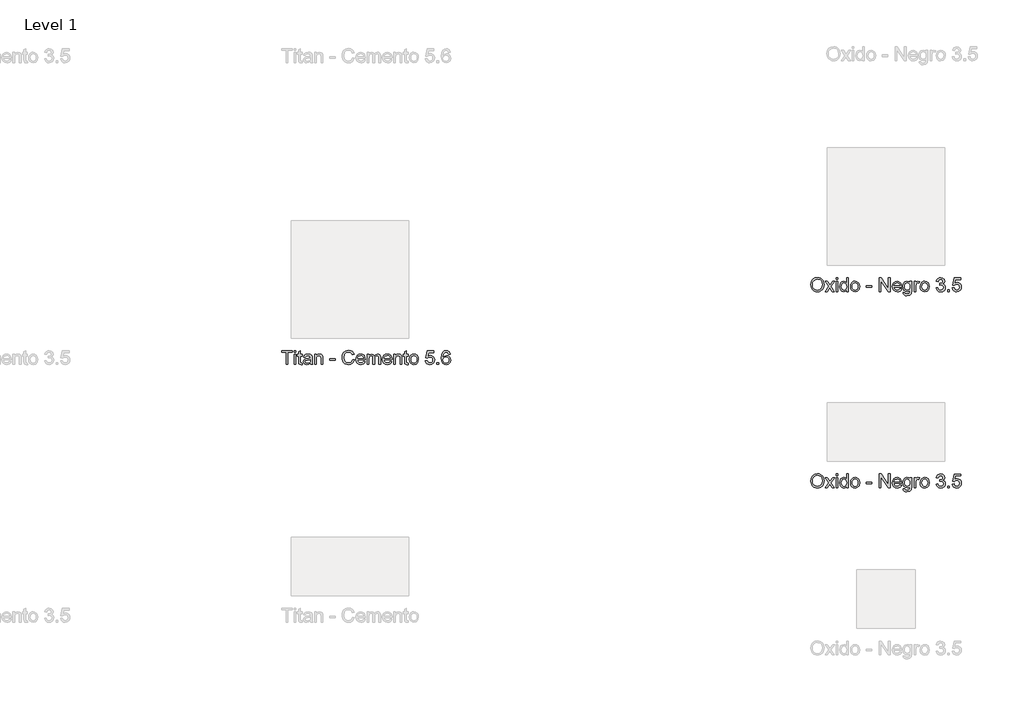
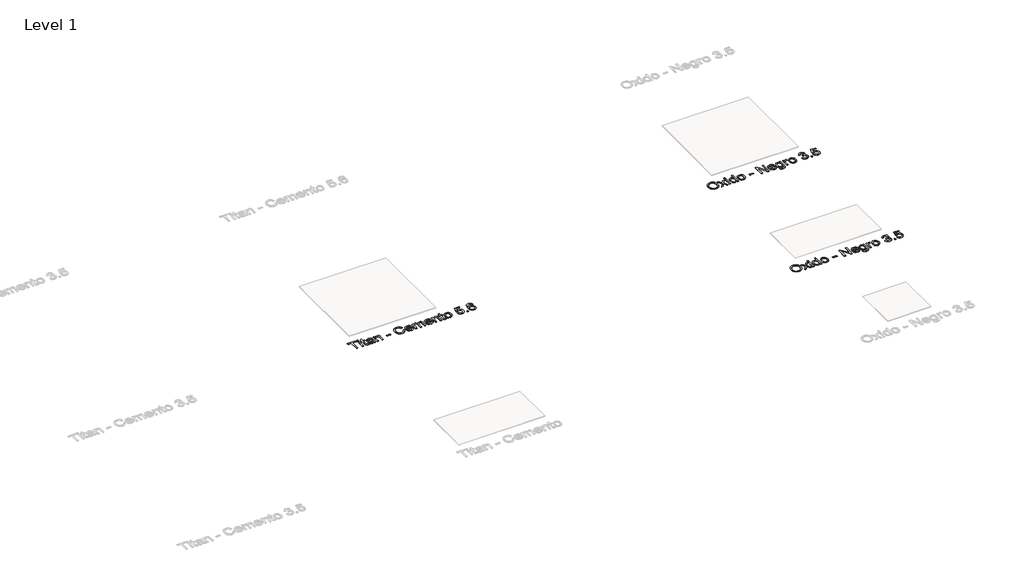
# One storey, part 33 of 80: 3 proxies.
"""IFC4 building model written with IfcOpenShell, lengths in millimetres."""

from ifc_helpers import new_model, si_unit, origin, origin_with_axes, place, context, project, spatial, polyline, outline, extrude, element, save

model = new_model("IFC4")

# Units and contexts
model_context = context("Model", 3, world=origin())
ifc_project = project(units=[si_unit("LENGTHUNIT", "METRE", prefix="MILLI")], contexts=[model_context])

# Site, building, storey
site = spatial("IfcSite", under=ifc_project)
building = spatial("IfcBuilding", under=site)
storey = spatial("IfcBuildingStorey", under=building, Name="Level 1", Elevation=0.0)

# Proxies
placement = place(None, origin())
element("IfcBuildingElementProxy", 1, Name="24\" Arial", ObjectType="24\" Arial", at=placement, inside=storey, context=model_context, shape_type="SweptSolid", body=[
    extrude(outline(polyline([(12694.7700459, -9552.677529), (12698.7075459, -9526.5501252), (12710.5200459, -9506.7832983), (12728.5561036, -9494.3433944), (12751.1642767, -9490.1967598), (12766.6618729, -9492.1438752), (12780.5585075, -9497.9852213), (12792.096969, -9507.3097406), (12800.5200459, -9519.7063752), (12805.6690844, -9534.5765675), (12807.3854306, -9551.3217598), (12805.5789402, -9568.2905098), (12800.159469, -9583.3698367), (12791.4262959, -9595.788106), (12779.6786998, -9604.7736829), (12765.9010556, -9610.225606), (12751.0777383, -9612.0429137), (12735.3421613, -9610.0345002), (12721.3661998, -9604.0092598), (12709.8565844, -9594.5116637), (12701.5200459, -9582.0861829), (12696.4575459, -9567.7893079), (12694.7700459, -9552.677529)]), holes=[polyline([(12709.5392767, -9552.8217598), (12712.4924017, -9571.3049329), (12721.3517767, -9585.3890675), (12734.6678825, -9594.302529), (12750.9911998, -9597.2736829), (12767.5524979, -9594.2736829), (12780.8902383, -9585.2736829), (12789.6847094, -9570.756856), (12792.6161998, -9551.2063752), (12787.596969, -9526.8313752), (12781.4202863, -9517.5897887), (12772.9286998, -9510.6919521), (12751.2508152, -9504.9659906), (12735.3637959, -9507.724404), (12721.8565844, -9515.9996444), (12712.6186036, -9530.7220002), (12709.5392767, -9552.8217598)])]), origin_with_axes(), (0.0, 0.0, 1.0), 2.0),
    extrude(outline(polyline([(12816.6161998, -9610.1967598), (12848.1738921, -9566.5813752), (12818.4623536, -9523.427529), (12836.2315844, -9523.427529), (12850.5681229, -9544.1967598), (12857.2604306, -9554.0044521), (12863.0585075, -9545.9852213), (12879.3854306, -9523.427529), (12897.1546613, -9523.427529), (12865.9431229, -9566.5813752), (12896.0008152, -9610.1967598), (12878.2315844, -9610.1967598), (12860.1450459, -9583.975606), (12856.8277383, -9579.1871444), (12834.3854306, -9610.1967598), (12816.6161998, -9610.1967598)])), origin_with_axes(), (0.0, 0.0, 1.0), 2.0),
    extrude(outline(polyline([(12908.9238921, -9506.8121444), (12908.9238921, -9492.0429137), (12923.6931229, -9492.0429137), (12923.6931229, -9506.8121444), (12908.9238921, -9506.8121444)])), origin_with_axes(), (0.0, 0.0, 1.0), 2.0),
    extrude(outline(polyline([(12908.9238921, -9610.1967598), (12908.9238921, -9523.427529), (12923.6931229, -9523.427529), (12923.6931229, -9610.1967598), (12908.9238921, -9610.1967598)])), origin_with_axes(), (0.0, 0.0, 1.0), 2.0),
    extrude(outline(polyline([(12999.3854306, -9610.1967598), (12999.3854306, -9596.2640675), (12989.6137959, -9608.0982021), (12976.1065844, -9612.0429137), (12957.8181229, -9606.3313752), (12944.8950459, -9590.3938752), (12940.3085075, -9566.8986829), (12944.534469, -9543.3890675), (12949.8133152, -9534.0645483), (12957.1979306, -9527.2063752), (12976.0488921, -9521.5813752), (12989.6642767, -9525.6054137), (12999.3854306, -9536.0621444), (12999.3854306, -9492.0429137), (13014.1546613, -9492.0429137), (13014.1546613, -9610.1967598), (12999.3854306, -9610.1967598)]), holes=[polyline([(12955.0777383, -9566.8409906), (12956.7436036, -9580.2003656), (12961.7411998, -9589.7015675), (12969.003219, -9595.380654), (12977.4623536, -9597.2736829), (12985.9178825, -9595.4671925), (12992.9960075, -9590.0477213), (12997.7880748, -9580.9143079), (12999.3854306, -9567.9659906), (12997.7592286, -9553.8097406), (12992.8806229, -9543.9948367), (12985.6222094, -9538.2616637), (12976.8565844, -9536.350606), (12968.3109113, -9538.1859425), (12961.3085075, -9543.6919521), (12956.6354306, -9553.1498848), (12955.0777383, -9566.8409906)])]), origin_with_axes(), (0.0, 0.0, 1.0), 2.0),
    extrude(outline(polyline([(13032.6161998, -9566.8121444), (13035.8109113, -9545.8914713), (13045.3950459, -9531.1871444), (13057.2363921, -9523.9828175), (13071.4142767, -9521.5813752), (13086.9299017, -9524.505654), (13099.3229306, -9533.2784906), (13107.4467286, -9547.2075771), (13110.1546613, -9565.600606), (13105.3661998, -9591.8794521), (13091.4190844, -9606.7496444), (13071.4142767, -9612.0429137), (13055.7111517, -9609.1294521), (13043.3325459, -9600.3890675), (13035.2952863, -9586.1679137), (13032.6161998, -9566.8121444)]), holes=[polyline([(13047.3854306, -9566.7832983), (13049.0945652, -9580.1498848), (13054.221969, -9589.6727213), (13061.9383152, -9595.3734425), (13071.4142767, -9597.2736829), (13080.846969, -9595.3626252), (13088.5488921, -9589.6294521), (13093.6762959, -9579.9804137), (13095.3854306, -9566.3217598), (13093.6654786, -9553.3445963), (13088.5056229, -9543.9515675), (13080.7928825, -9538.2508463), (13071.4142767, -9536.350606), (13061.9383152, -9538.2436348), (13054.221969, -9543.9227213), (13049.0945652, -9553.4239233), (13047.3854306, -9566.7832983)])]), origin_with_axes(), (0.0, 0.0, 1.0), 2.0),
    extrude(outline(polyline([(13165.5392767, -9575.1198367), (13165.5392767, -9560.350606), (13211.6931229, -9560.350606), (13211.6931229, -9575.1198367), (13165.5392767, -9575.1198367)])), origin_with_axes(), (0.0, 0.0, 1.0), 2.0),
    extrude(outline(polyline([(13276.3085075, -9610.1967598), (13276.3085075, -9492.0429137), (13292.1161998, -9492.0429137), (13353.846969, -9585.6486829), (13353.846969, -9492.0429137), (13368.6161998, -9492.0429137), (13368.6161998, -9610.1967598), (13352.8085075, -9610.1967598), (13291.0777383, -9516.5621444), (13291.0777383, -9610.1967598), (13276.3085075, -9610.1967598)])), origin_with_axes(), (0.0, 0.0, 1.0), 2.0),
    extrude(outline(polyline([(13453.3661998, -9584.350606), (13467.846969, -9586.1967598), (13462.6294209, -9597.1078175), (13454.3036998, -9605.2640675), (13443.0573056, -9610.3482021), (13429.0777383, -9612.0429137), (13411.7484113, -9609.1186348), (13398.4142767, -9600.3457983), (13389.9118729, -9586.2941156), (13387.0777383, -9567.5332983), (13389.940719, -9548.1414713), (13398.5296613, -9533.6390675), (13411.6835075, -9524.5957983), (13428.2411998, -9521.5813752), (13444.2832671, -9524.5885867), (13457.1017767, -9533.6102213), (13465.5068248, -9548.083779), (13468.3085075, -9567.4467598), (13468.221969, -9571.427529), (13401.846969, -9571.427529), (13404.4034594, -9582.4828175), (13410.3421613, -9590.6102213), (13418.9130748, -9595.6078175), (13429.3661998, -9597.2736829), (13443.846969, -9594.1871444), (13453.3661998, -9584.350606)]), holes=[polyline([(13401.846969, -9556.6582983), (13453.5392767, -9556.6582983), (13447.6258152, -9543.2736829), (13439.0152383, -9538.0813752), (13428.1835075, -9536.350606), (13409.9960075, -9541.8746444), (13404.2736517, -9548.3325771), (13401.846969, -9556.6582983)])]), origin_with_axes(), (0.0, 0.0, 1.0), 2.0),
    extrude(outline(polyline([(13479.3854306, -9617.5813752), (13494.1546613, -9619.427529), (13498.9431229, -9627.2159906), (13513.2796613, -9630.5044521), (13528.3950459, -9626.7832983), (13535.6065844, -9616.3409906), (13536.6161998, -9599.1198367), (13526.2171613, -9607.427529), (13513.5392767, -9610.1967598), (13498.3121133, -9606.9732021), (13486.9575459, -9597.302529), (13479.893844, -9583.1246444), (13477.5392767, -9566.3794521), (13481.7652383, -9543.490029), (13493.9960075, -9527.2929137), (13512.8181229, -9521.5813752), (13525.9936036, -9524.8121444), (13536.6161998, -9534.5044521), (13536.6161998, -9523.427529), (13551.3854306, -9523.427529), (13551.3854306, -9598.3409906), (13547.346969, -9627.0284906), (13534.5536998, -9640.3698367), (13512.9911998, -9645.2736829), (13499.2496133, -9643.5465194), (13488.4286998, -9638.365029), (13481.487594, -9629.7147887), (13479.3854306, -9617.5813752)]), holes=[polyline([(13492.3085075, -9565.3698367), (13493.8842286, -9578.9167117), (13498.6113921, -9588.2304137), (13505.7183633, -9593.6282502), (13514.4335075, -9595.427529), (13523.0837479, -9593.6390675), (13530.2267767, -9588.2736829), (13535.018844, -9579.0789713), (13536.6161998, -9565.802529), (13534.971969, -9552.9984425), (13530.0392767, -9543.7784906), (13522.7916806, -9538.2075771), (13514.2027383, -9536.350606), (13505.768844, -9538.178731), (13498.6979306, -9543.663106), (13493.9058633, -9552.7460387), (13492.3085075, -9565.3698367)])]), origin_with_axes(), (0.0, 0.0, 1.0), 2.0),
    extrude(outline(polyline([(13573.5392767, -9610.1967598), (13573.5392767, -9523.427529), (13586.4623536, -9523.427529), (13586.4623536, -9536.2640675), (13595.6354306, -9524.4371444), (13604.8661998, -9521.5813752), (13619.6931229, -9526.1390675), (13614.7604306, -9539.3794521), (13604.3758152, -9536.350606), (13596.0248536, -9539.2640675), (13590.7027383, -9547.3409906), (13588.3085075, -9564.5909906), (13588.3085075, -9610.1967598), (13573.5392767, -9610.1967598)])), origin_with_axes(), (0.0, 0.0, 1.0), 2.0),
    extrude(outline(polyline([(13625.2315844, -9566.8121444), (13628.4262959, -9545.8914713), (13638.0104306, -9531.1871444), (13649.8517767, -9523.9828175), (13664.0296613, -9521.5813752), (13679.5452863, -9524.505654), (13691.9383152, -9533.2784906), (13700.0621133, -9547.2075771), (13702.7700459, -9565.600606), (13697.9815844, -9591.8794521), (13684.034469, -9606.7496444), (13664.0296613, -9612.0429137), (13648.3265363, -9609.1294521), (13635.9479306, -9600.3890675), (13627.9106709, -9586.1679137), (13625.2315844, -9566.8121444)]), holes=[polyline([(13640.0008152, -9566.7832983), (13641.7099498, -9580.1498848), (13646.8373536, -9589.6727213), (13654.5536998, -9595.3734425), (13664.0296613, -9597.2736829), (13673.4623536, -9595.3626252), (13681.1642767, -9589.6294521), (13686.2916806, -9579.9804137), (13688.0008152, -9566.3217598), (13686.2808633, -9553.3445963), (13681.1210075, -9543.9515675), (13673.4082671, -9538.2508463), (13664.0296613, -9536.350606), (13654.5536998, -9538.2436348), (13646.8373536, -9543.9227213), (13641.7099498, -9553.4239233), (13640.0008152, -9566.7832983)])]), origin_with_axes(), (0.0, 0.0, 1.0), 2.0),
    extrude(outline(polyline([(13761.846969, -9578.8121444), (13776.6161998, -9576.9659906), (13784.7652383, -9592.5140675), (13800.0104306, -9597.2736829), (13810.1354306, -9595.6366637), (13817.9527383, -9590.725606), (13822.9503344, -9583.3986829), (13824.6161998, -9574.5140675), (13822.9647575, -9566.0801733), (13818.0104306, -9559.240029), (13810.5104306, -9554.7075771), (13801.221969, -9553.1967598), (13790.8661998, -9554.8121444), (13792.5104306, -9540.0429137), (13794.8758152, -9540.2159906), (13811.6354306, -9535.975606), (13817.2171613, -9530.5957983), (13819.0777383, -9522.9371444), (13813.6835075, -9511.3842598), (13799.7796613, -9506.8121444), (13785.7027383, -9511.427529), (13778.4623536, -9525.2736829), (13763.6931229, -9523.427529), (13768.0416806, -9510.1655098), (13775.7796613, -9500.2640675), (13786.3661998, -9494.0982021), (13799.2604306, -9492.0429137), (13817.0729306, -9496.0957983), (13829.534469, -9507.1727213), (13833.846969, -9522.0717598), (13829.7508152, -9535.6871444), (13817.6354306, -9545.4659906), (13826.8806229, -9549.2015675), (13833.7315844, -9555.5621444), (13837.971969, -9564.2015675), (13839.3854306, -9574.7736829), (13836.5585075, -9589.1679137), (13828.0777383, -9601.1967598), (13815.2772575, -9609.3313752), (13799.4911998, -9612.0429137), (13785.2123536, -9609.7280098), (13773.5873536, -9602.7832983), (13765.503219, -9592.1607021), (13761.846969, -9578.8121444)])), origin_with_axes(), (0.0, 0.0, 1.0), 2.0),
    extrude(outline(polyline([(13859.6931229, -9610.1967598), (13859.6931229, -9595.427529), (13874.4623536, -9595.427529), (13874.4623536, -9610.1967598), (13859.6931229, -9610.1967598)])), origin_with_axes(), (0.0, 0.0, 1.0), 2.0),
    extrude(outline(polyline([(13898.4623536, -9578.8121444), (13913.2315844, -9576.9659906), (13920.6738921, -9592.1823367), (13936.1065844, -9597.2736829), (13946.6931229, -9595.5032502), (13954.6258152, -9590.1919521), (13959.5801421, -9581.9527694), (13961.2315844, -9571.3986829), (13959.6847094, -9561.4611829), (13955.0440844, -9553.8602213), (13947.2736517, -9549.0357021), (13936.3373536, -9547.427529), (13923.3710075, -9549.9948367), (13915.0777383, -9556.6582983), (13900.3085075, -9554.8121444), (13913.2315844, -9493.8890675), (13970.4623536, -9493.8890675), (13970.4623536, -9508.6582983), (13925.1738921, -9508.6582983), (13918.8565844, -9541.1967598), (13929.4070652, -9534.7929137), (13940.4623536, -9532.6582983), (13954.2616325, -9535.3049329), (13965.7171613, -9543.2448367), (13973.4299017, -9555.3457983), (13976.0008152, -9570.475606), (13973.6859113, -9585.2448367), (13966.7411998, -9597.8794521), (13953.4431229, -9608.5020483), (13936.0488921, -9612.0429137), (13921.5428825, -9609.7676733), (13909.9863921, -9602.9419521), (13902.0645171, -9592.3590194), (13898.4623536, -9578.8121444)])), origin_with_axes(), (0.0, 0.0, 1.0), 2.0),
])
element("IfcBuildingElementProxy", 2, Name="24\" Arial", ObjectType="24\" Arial", at=placement, inside=storey, context=model_context, shape_type="SweptSolid", body=[
    extrude(outline(polyline([(12694.7700459, -11222.6920446), (12698.7075459, -11196.5646408), (12710.5200459, -11176.7978138), (12728.5561036, -11164.35791), (12751.1642767, -11160.2112754), (12766.6618729, -11162.1583908), (12780.5585075, -11167.9997369), (12792.096969, -11177.3242561), (12800.5200459, -11189.7208908), (12805.6690844, -11204.5910831), (12807.3854306, -11221.3362754), (12805.5789402, -11238.3050254), (12800.159469, -11253.3843523), (12791.4262959, -11265.8026215), (12779.6786998, -11274.7881985), (12765.9010556, -11280.2401215), (12751.0777383, -11282.0574292), (12735.3421613, -11280.0490158), (12721.3661998, -11274.0237754), (12709.8565844, -11264.5261792), (12701.5200459, -11252.1006985), (12696.4575459, -11237.8038235), (12694.7700459, -11222.6920446)]), holes=[polyline([(12709.5392767, -11222.8362754), (12712.4924017, -11241.3194485), (12721.3517767, -11255.4035831), (12734.6678825, -11264.3170446), (12750.9911998, -11267.2881985), (12767.5524979, -11264.2881985), (12780.8902383, -11255.2881985), (12789.6847094, -11240.7713715), (12792.6161998, -11221.2208908), (12787.596969, -11196.8458908), (12781.4202863, -11187.6043042), (12772.9286998, -11180.7064677), (12751.2508152, -11174.9805061), (12735.3637959, -11177.7389196), (12721.8565844, -11186.01416), (12712.6186036, -11200.7365158), (12709.5392767, -11222.8362754)])]), origin_with_axes(), (0.0, 0.0, 1.0), 2.0),
    extrude(outline(polyline([(12816.6161998, -11280.2112754), (12848.1738921, -11236.5958908), (12818.4623536, -11193.4420446), (12836.2315844, -11193.4420446), (12850.5681229, -11214.2112754), (12857.2604306, -11224.0189677), (12863.0585075, -11215.9997369), (12879.3854306, -11193.4420446), (12897.1546613, -11193.4420446), (12865.9431229, -11236.5958908), (12896.0008152, -11280.2112754), (12878.2315844, -11280.2112754), (12860.1450459, -11253.9901215), (12856.8277383, -11249.20166), (12834.3854306, -11280.2112754), (12816.6161998, -11280.2112754)])), origin_with_axes(), (0.0, 0.0, 1.0), 2.0),
    extrude(outline(polyline([(12908.9238921, -11176.82666), (12908.9238921, -11162.0574292), (12923.6931229, -11162.0574292), (12923.6931229, -11176.82666), (12908.9238921, -11176.82666)])), origin_with_axes(), (0.0, 0.0, 1.0), 2.0),
    extrude(outline(polyline([(12908.9238921, -11280.2112754), (12908.9238921, -11193.4420446), (12923.6931229, -11193.4420446), (12923.6931229, -11280.2112754), (12908.9238921, -11280.2112754)])), origin_with_axes(), (0.0, 0.0, 1.0), 2.0),
    extrude(outline(polyline([(12999.3854306, -11280.2112754), (12999.3854306, -11266.2785831), (12989.6137959, -11278.1127177), (12976.1065844, -11282.0574292), (12957.8181229, -11276.3458908), (12944.8950459, -11260.4083908), (12940.3085075, -11236.9131985), (12944.534469, -11213.4035831), (12949.8133152, -11204.0790638), (12957.1979306, -11197.2208908), (12976.0488921, -11191.5958908), (12989.6642767, -11195.6199292), (12999.3854306, -11206.07666), (12999.3854306, -11162.0574292), (13014.1546613, -11162.0574292), (13014.1546613, -11280.2112754), (12999.3854306, -11280.2112754)]), holes=[polyline([(12955.0777383, -11236.8555061), (12956.7436036, -11250.2148811), (12961.7411998, -11259.7160831), (12969.003219, -11265.3951696), (12977.4623536, -11267.2881985), (12985.9178825, -11265.4817081), (12992.9960075, -11260.0622369), (12997.7880748, -11250.9288235), (12999.3854306, -11237.9805061), (12997.7592286, -11223.8242561), (12992.8806229, -11214.0093523), (12985.6222094, -11208.2761792), (12976.8565844, -11206.3651215), (12968.3109113, -11208.2004581), (12961.3085075, -11213.7064677), (12956.6354306, -11223.1644004), (12955.0777383, -11236.8555061)])]), origin_with_axes(), (0.0, 0.0, 1.0), 2.0),
    extrude(outline(polyline([(13032.6161998, -11236.82666), (13035.8109113, -11215.9059869), (13045.3950459, -11201.20166), (13057.2363921, -11193.9973331), (13071.4142767, -11191.5958908), (13086.9299017, -11194.5201696), (13099.3229306, -11203.2930061), (13107.4467286, -11217.2220927), (13110.1546613, -11235.6151215), (13105.3661998, -11261.8939677), (13091.4190844, -11276.76416), (13071.4142767, -11282.0574292), (13055.7111517, -11279.1439677), (13043.3325459, -11270.4035831), (13035.2952863, -11256.1824292), (13032.6161998, -11236.82666)]), holes=[polyline([(13047.3854306, -11236.7978138), (13049.0945652, -11250.1644004), (13054.221969, -11259.6872369), (13061.9383152, -11265.3879581), (13071.4142767, -11267.2881985), (13080.846969, -11265.3771408), (13088.5488921, -11259.6439677), (13093.6762959, -11249.9949292), (13095.3854306, -11236.3362754), (13093.6654786, -11223.3591119), (13088.5056229, -11213.9660831), (13080.7928825, -11208.2653619), (13071.4142767, -11206.3651215), (13061.9383152, -11208.2581504), (13054.221969, -11213.9372369), (13049.0945652, -11223.4384388), (13047.3854306, -11236.7978138)])]), origin_with_axes(), (0.0, 0.0, 1.0), 2.0),
    extrude(outline(polyline([(13165.5392767, -11245.1343523), (13165.5392767, -11230.3651215), (13211.6931229, -11230.3651215), (13211.6931229, -11245.1343523), (13165.5392767, -11245.1343523)])), origin_with_axes(), (0.0, 0.0, 1.0), 2.0),
    extrude(outline(polyline([(13276.3085075, -11280.2112754), (13276.3085075, -11162.0574292), (13292.1161998, -11162.0574292), (13353.846969, -11255.6631985), (13353.846969, -11162.0574292), (13368.6161998, -11162.0574292), (13368.6161998, -11280.2112754), (13352.8085075, -11280.2112754), (13291.0777383, -11186.57666), (13291.0777383, -11280.2112754), (13276.3085075, -11280.2112754)])), origin_with_axes(), (0.0, 0.0, 1.0), 2.0),
    extrude(outline(polyline([(13453.3661998, -11254.3651215), (13467.846969, -11256.2112754), (13462.6294209, -11267.1223331), (13454.3036998, -11275.2785831), (13443.0573056, -11280.3627177), (13429.0777383, -11282.0574292), (13411.7484113, -11279.1331504), (13398.4142767, -11270.3603138), (13389.9118729, -11256.3086311), (13387.0777383, -11237.5478138), (13389.940719, -11218.1559869), (13398.5296613, -11203.6535831), (13411.6835075, -11194.6103138), (13428.2411998, -11191.5958908), (13444.2832671, -11194.6031023), (13457.1017767, -11203.6247369), (13465.5068248, -11218.0982946), (13468.3085075, -11237.4612754), (13468.221969, -11241.4420446), (13401.846969, -11241.4420446), (13404.4034594, -11252.4973331), (13410.3421613, -11260.6247369), (13418.9130748, -11265.6223331), (13429.3661998, -11267.2881985), (13443.846969, -11264.20166), (13453.3661998, -11254.3651215)]), holes=[polyline([(13401.846969, -11226.6728138), (13453.5392767, -11226.6728138), (13447.6258152, -11213.2881985), (13439.0152383, -11208.0958908), (13428.1835075, -11206.3651215), (13409.9960075, -11211.88916), (13404.2736517, -11218.3470927), (13401.846969, -11226.6728138)])]), origin_with_axes(), (0.0, 0.0, 1.0), 2.0),
    extrude(outline(polyline([(13479.3854306, -11287.5958908), (13494.1546613, -11289.4420446), (13498.9431229, -11297.2305061), (13513.2796613, -11300.5189677), (13528.3950459, -11296.7978138), (13535.6065844, -11286.3555061), (13536.6161998, -11269.1343523), (13526.2171613, -11277.4420446), (13513.5392767, -11280.2112754), (13498.3121133, -11276.9877177), (13486.9575459, -11267.3170446), (13479.893844, -11253.13916), (13477.5392767, -11236.3939677), (13481.7652383, -11213.5045446), (13493.9960075, -11197.3074292), (13512.8181229, -11191.5958908), (13525.9936036, -11194.82666), (13536.6161998, -11204.5189677), (13536.6161998, -11193.4420446), (13551.3854306, -11193.4420446), (13551.3854306, -11268.3555061), (13547.346969, -11297.0430061), (13534.5536998, -11310.3843523), (13512.9911998, -11315.2881985), (13499.2496133, -11313.561035), (13488.4286998, -11308.3795446), (13481.487594, -11299.7293042), (13479.3854306, -11287.5958908)]), holes=[polyline([(13492.3085075, -11235.3843523), (13493.8842286, -11248.9312273), (13498.6113921, -11258.2449292), (13505.7183633, -11263.6427658), (13514.4335075, -11265.4420446), (13523.0837479, -11263.6535831), (13530.2267767, -11258.2881985), (13535.018844, -11249.0934869), (13536.6161998, -11235.8170446), (13534.971969, -11223.0129581), (13530.0392767, -11213.7930061), (13522.7916806, -11208.2220927), (13514.2027383, -11206.3651215), (13505.768844, -11208.1932465), (13498.6979306, -11213.6776215), (13493.9058633, -11222.7605542), (13492.3085075, -11235.3843523)])]), origin_with_axes(), (0.0, 0.0, 1.0), 2.0),
    extrude(outline(polyline([(13573.5392767, -11280.2112754), (13573.5392767, -11193.4420446), (13586.4623536, -11193.4420446), (13586.4623536, -11206.2785831), (13595.6354306, -11194.45166), (13604.8661998, -11191.5958908), (13619.6931229, -11196.1535831), (13614.7604306, -11209.3939677), (13604.3758152, -11206.3651215), (13596.0248536, -11209.2785831), (13590.7027383, -11217.3555061), (13588.3085075, -11234.6055061), (13588.3085075, -11280.2112754), (13573.5392767, -11280.2112754)])), origin_with_axes(), (0.0, 0.0, 1.0), 2.0),
    extrude(outline(polyline([(13625.2315844, -11236.82666), (13628.4262959, -11215.9059869), (13638.0104306, -11201.20166), (13649.8517767, -11193.9973331), (13664.0296613, -11191.5958908), (13679.5452863, -11194.5201696), (13691.9383152, -11203.2930061), (13700.0621133, -11217.2220927), (13702.7700459, -11235.6151215), (13697.9815844, -11261.8939677), (13684.034469, -11276.76416), (13664.0296613, -11282.0574292), (13648.3265363, -11279.1439677), (13635.9479306, -11270.4035831), (13627.9106709, -11256.1824292), (13625.2315844, -11236.82666)]), holes=[polyline([(13640.0008152, -11236.7978138), (13641.7099498, -11250.1644004), (13646.8373536, -11259.6872369), (13654.5536998, -11265.3879581), (13664.0296613, -11267.2881985), (13673.4623536, -11265.3771408), (13681.1642767, -11259.6439677), (13686.2916806, -11249.9949292), (13688.0008152, -11236.3362754), (13686.2808633, -11223.3591119), (13681.1210075, -11213.9660831), (13673.4082671, -11208.2653619), (13664.0296613, -11206.3651215), (13654.5536998, -11208.2581504), (13646.8373536, -11213.9372369), (13641.7099498, -11223.4384388), (13640.0008152, -11236.7978138)])]), origin_with_axes(), (0.0, 0.0, 1.0), 2.0),
    extrude(outline(polyline([(13761.846969, -11248.82666), (13776.6161998, -11246.9805061), (13784.7652383, -11262.5285831), (13800.0104306, -11267.2881985), (13810.1354306, -11265.6511792), (13817.9527383, -11260.7401215), (13822.9503344, -11253.4131985), (13824.6161998, -11244.5285831), (13822.9647575, -11236.0946888), (13818.0104306, -11229.2545446), (13810.5104306, -11224.7220927), (13801.221969, -11223.2112754), (13790.8661998, -11224.82666), (13792.5104306, -11210.0574292), (13794.8758152, -11210.2305061), (13811.6354306, -11205.9901215), (13817.2171613, -11200.6103138), (13819.0777383, -11192.95166), (13813.6835075, -11181.3987754), (13799.7796613, -11176.82666), (13785.7027383, -11181.4420446), (13778.4623536, -11195.2881985), (13763.6931229, -11193.4420446), (13768.0416806, -11180.1800254), (13775.7796613, -11170.2785831), (13786.3661998, -11164.1127177), (13799.2604306, -11162.0574292), (13817.0729306, -11166.1103138), (13829.534469, -11177.1872369), (13833.846969, -11192.0862754), (13829.7508152, -11205.70166), (13817.6354306, -11215.4805061), (13826.8806229, -11219.2160831), (13833.7315844, -11225.57666), (13837.971969, -11234.2160831), (13839.3854306, -11244.7881985), (13836.5585075, -11259.1824292), (13828.0777383, -11271.2112754), (13815.2772575, -11279.3458908), (13799.4911998, -11282.0574292), (13785.2123536, -11279.7425254), (13773.5873536, -11272.7978138), (13765.503219, -11262.1752177), (13761.846969, -11248.82666)])), origin_with_axes(), (0.0, 0.0, 1.0), 2.0),
    extrude(outline(polyline([(13859.6931229, -11280.2112754), (13859.6931229, -11265.4420446), (13874.4623536, -11265.4420446), (13874.4623536, -11280.2112754), (13859.6931229, -11280.2112754)])), origin_with_axes(), (0.0, 0.0, 1.0), 2.0),
    extrude(outline(polyline([(13898.4623536, -11248.82666), (13913.2315844, -11246.9805061), (13920.6738921, -11262.1968523), (13936.1065844, -11267.2881985), (13946.6931229, -11265.5177658), (13954.6258152, -11260.2064677), (13959.5801421, -11251.967285), (13961.2315844, -11241.4131985), (13959.6847094, -11231.4756985), (13955.0440844, -11223.8747369), (13947.2736517, -11219.0502177), (13936.3373536, -11217.4420446), (13923.3710075, -11220.0093523), (13915.0777383, -11226.6728138), (13900.3085075, -11224.82666), (13913.2315844, -11163.9035831), (13970.4623536, -11163.9035831), (13970.4623536, -11178.6728138), (13925.1738921, -11178.6728138), (13918.8565844, -11211.2112754), (13929.4070652, -11204.8074292), (13940.4623536, -11202.6728138), (13954.2616325, -11205.3194485), (13965.7171613, -11213.2593523), (13973.4299017, -11225.3603138), (13976.0008152, -11240.4901215), (13973.6859113, -11255.2593523), (13966.7411998, -11267.8939677), (13953.4431229, -11278.5165638), (13936.0488921, -11282.0574292), (13921.5428825, -11279.7821888), (13909.9863921, -11272.9564677), (13902.0645171, -11262.373535), (13898.4623536, -11248.82666)])), origin_with_axes(), (0.0, 0.0, 1.0), 2.0),
])
element("IfcBuildingElementProxy", 3, Name="24\" Arial", ObjectType="24\" Arial", at=placement, inside=storey, context=model_context, shape_type="SweptSolid", body=[
    extrude(outline(polyline([(8229.846969, -10230.2191462), (8229.846969, -10126.8345308), (8191.0777383, -10126.8345308), (8191.0777383, -10112.0653001), (8283.3854306, -10112.0653001), (8283.3854306, -10126.8345308), (8244.6161998, -10126.8345308), (8244.6161998, -10230.2191462), (8229.846969, -10230.2191462)])), origin_with_axes(), (0.0, 0.0, 1.0), 2.0),
    extrude(outline(polyline([(8298.1546613, -10230.2191462), (8298.1546613, -10143.4499154), (8312.9238921, -10143.4499154), (8312.9238921, -10230.2191462), (8298.1546613, -10230.2191462)])), origin_with_axes(), (0.0, 0.0, 1.0), 2.0),
    extrude(outline(polyline([(8298.1546613, -10126.8345308), (8298.1546613, -10112.0653001), (8312.9238921, -10112.0653001), (8312.9238921, -10126.8345308), (8298.1546613, -10126.8345308)])), origin_with_axes(), (0.0, 0.0, 1.0), 2.0),
    extrude(outline(polyline([(8366.4623536, -10217.9018385), (8368.3085075, -10230.6518385), (8357.2604306, -10232.0653001), (8344.8854306, -10229.613377), (8338.7123536, -10223.1806847), (8336.9238921, -10206.4210693), (8336.9238921, -10158.2191462), (8325.846969, -10158.2191462), (8325.846969, -10143.4499154), (8336.9238921, -10143.4499154), (8336.9238921, -10122.363377), (8351.6931229, -10113.6806847), (8351.6931229, -10143.4499154), (8366.4623536, -10143.4499154), (8366.4623536, -10158.2191462), (8351.6931229, -10158.2191462), (8351.6931229, -10205.988377), (8352.471969, -10213.6037616), (8354.9960075, -10216.300877), (8360.0296613, -10217.2960693), (8366.4623536, -10217.9018385)])), origin_with_axes(), (0.0, 0.0, 1.0), 2.0),
    extrude(outline(polyline([(8436.6161998, -10219.1422231), (8422.2940844, -10229.1518385), (8406.471969, -10232.0653001), (8394.1294209, -10230.3128962), (8385.0248536, -10225.0556847), (8379.4106709, -10217.0725116), (8377.5392767, -10207.1422231), (8380.3661998, -10195.4595308), (8387.7940844, -10186.9787616), (8398.1354306, -10182.1326077), (8410.9142767, -10179.9114539), (8436.5296613, -10174.8345308), (8436.6161998, -10171.5460693), (8432.5488921, -10160.6422231), (8416.221969, -10156.3729924), (8401.2796613, -10159.2143385), (8394.1546613, -10169.2960693), (8379.3854306, -10167.4499154), (8385.7748536, -10153.0268385), (8398.6402383, -10144.5749154), (8418.1258152, -10141.6037616), (8436.0248536, -10144.2287616), (8446.1354306, -10150.8201077), (8450.6642767, -10160.8441462), (8451.3854306, -10173.7672231), (8451.3854306, -10192.1422231), (8452.1354306, -10217.800877), (8455.0777383, -10230.2191462), (8440.3085075, -10230.2191462), (8436.6161998, -10219.1422231)]), holes=[polyline([(8436.6161998, -10189.6037616), (8412.7892767, -10194.1326077), (8400.0825459, -10196.5268385), (8394.3277383, -10200.4210693), (8392.3085075, -10206.1037616), (8396.7075459, -10214.0941462), (8409.6161998, -10217.2960693), (8424.5585075, -10213.7624154), (8434.1931229, -10205.2095308), (8436.5296613, -10193.7864539), (8436.6161998, -10189.6037616)])]), origin_with_axes(), (0.0, 0.0, 1.0), 2.0),
    extrude(outline(polyline([(8471.6931229, -10230.2191462), (8471.6931229, -10143.4499154), (8486.4623536, -10143.4499154), (8486.4623536, -10155.5653001), (8497.7556229, -10145.0941462), (8513.1738921, -10141.6037616), (8527.1210075, -10144.4162616), (8536.6402383, -10151.800877), (8541.0681229, -10162.6614539), (8541.846969, -10176.9403001), (8541.846969, -10230.2191462), (8527.0777383, -10230.2191462), (8527.0777383, -10178.9306847), (8525.3758152, -10165.863377), (8519.3613921, -10158.9547231), (8509.221969, -10156.3729924), (8493.1979306, -10162.1710693), (8488.1462479, -10170.5725116), (8486.4623536, -10184.1806847), (8486.4623536, -10230.2191462), (8471.6931229, -10230.2191462)])), origin_with_axes(), (0.0, 0.0, 1.0), 2.0),
    extrude(outline(polyline([(8600.9238921, -10195.1422231), (8600.9238921, -10180.3729924), (8647.0777383, -10180.3729924), (8647.0777383, -10195.1422231), (8600.9238921, -10195.1422231)])), origin_with_axes(), (0.0, 0.0, 1.0), 2.0),
    extrude(outline(polyline([(8794.7700459, -10188.2191462), (8809.5392767, -10192.0268385), (8802.7243729, -10209.2371751), (8792.0296613, -10221.8104924), (8777.9815844, -10229.5015981), (8761.1065844, -10232.0653001), (8743.9755748, -10230.1253962), (8730.3710075, -10224.3056847), (8719.9431229, -10214.8080885), (8712.3421613, -10201.8345308), (8707.7015363, -10186.582127), (8706.1546613, -10170.2479924), (8707.9034594, -10153.019627), (8713.1498536, -10138.1422231), (8721.6198056, -10126.0881366), (8733.0392767, -10117.3297231), (8746.5825459, -10111.9967904), (8761.4238921, -10110.2191462), (8777.6174017, -10112.519627), (8791.0056229, -10119.4210693), (8801.1702863, -10130.4979924), (8807.6931229, -10145.3249154), (8792.9238921, -10148.8441462), (8787.8036998, -10138.0737135), (8780.8085075, -10130.6854924), (8771.8517767, -10126.4126558), (8760.846969, -10124.988377), (8748.1618729, -10126.5677039), (8737.7411998, -10131.3056847), (8729.8337479, -10138.7047231), (8724.6883152, -10148.2672231), (8720.9238921, -10170.2191462), (8725.3806229, -10195.6614539), (8731.0777383, -10205.1626558), (8739.2556229, -10211.9162616), (8759.6354306, -10217.2960693), (8771.9635556, -10215.4643385), (8782.2363921, -10209.9691462), (8789.9924017, -10200.8681847), (8794.7700459, -10188.2191462)])), origin_with_axes(), (0.0, 0.0, 1.0), 2.0),
    extrude(outline(polyline([(8888.7508152, -10204.3729924), (8903.2315844, -10206.2191462), (8898.0140363, -10217.1302039), (8889.6883152, -10225.2864539), (8878.4419209, -10230.3705885), (8864.4623536, -10232.0653001), (8847.1330267, -10229.1410212), (8833.7988921, -10220.3681847), (8825.2964883, -10206.316502), (8822.4623536, -10187.5556847), (8825.3253344, -10168.1638577), (8833.9142767, -10153.6614539), (8847.0681229, -10144.6181847), (8863.6258152, -10141.6037616), (8879.6678825, -10144.6109731), (8892.4863921, -10153.6326077), (8900.8914402, -10168.1061654), (8903.6931229, -10187.4691462), (8903.6065844, -10191.4499154), (8837.2315844, -10191.4499154), (8839.7880748, -10202.5052039), (8845.7267767, -10210.6326077), (8854.2976902, -10215.6302039), (8864.7508152, -10217.2960693), (8879.2315844, -10214.2095308), (8888.7508152, -10204.3729924)]), holes=[polyline([(8837.2315844, -10176.6806847), (8888.9238921, -10176.6806847), (8883.0104306, -10163.2960693), (8874.3998536, -10158.1037616), (8863.5681229, -10156.3729924), (8845.3806229, -10161.8970308), (8839.6582671, -10168.3549635), (8837.2315844, -10176.6806847)])]), origin_with_axes(), (0.0, 0.0, 1.0), 2.0),
    extrude(outline(polyline([(8918.4623536, -10230.2191462), (8918.4623536, -10143.4499154), (8933.2315844, -10143.4499154), (8933.2315844, -10157.7287616), (8943.3854306, -10146.0316462), (8957.8373536, -10141.6037616), (8972.6354306, -10146.1181847), (8980.7700459, -10158.7672231), (8992.2940844, -10145.894627), (9006.846969, -10141.6037616), (9017.9491325, -10143.3886174), (9026.159469, -10148.7431847), (9031.2327863, -10157.8116943), (9032.9238921, -10170.738377), (9032.9238921, -10230.2191462), (9018.1546613, -10230.2191462), (9018.1546613, -10177.0845308), (9016.784469, -10164.7528001), (9011.8229306, -10158.6806847), (9003.3854306, -10156.3729924), (8995.3842286, -10157.8513577), (8988.8613921, -10162.2864539), (8984.5236517, -10169.9811654), (8983.0777383, -10181.238377), (8983.0777383, -10230.2191462), (8968.3085075, -10230.2191462), (8968.3085075, -10175.4403001), (8964.8902383, -10161.1326077), (8953.6835075, -10156.3729924), (8942.7508152, -10159.5460693), (8935.4815844, -10168.8345308), (8933.2315844, -10186.4595308), (8933.2315844, -10230.2191462), (8918.4623536, -10230.2191462)])), origin_with_axes(), (0.0, 0.0, 1.0), 2.0),
    extrude(outline(polyline([(9115.8277383, -10204.3729924), (9130.3085075, -10206.2191462), (9125.0909594, -10217.1302039), (9116.7652383, -10225.2864539), (9105.518844, -10230.3705885), (9091.5392767, -10232.0653001), (9074.2099498, -10229.1410212), (9060.8758152, -10220.3681847), (9052.3734113, -10206.316502), (9049.5392767, -10187.5556847), (9052.4022575, -10168.1638577), (9060.9911998, -10153.6614539), (9074.1450459, -10144.6181847), (9090.7027383, -10141.6037616), (9106.7448056, -10144.6109731), (9119.5633152, -10153.6326077), (9127.9683633, -10168.1061654), (9130.7700459, -10187.4691462), (9130.6835075, -10191.4499154), (9064.3085075, -10191.4499154), (9066.8649979, -10202.5052039), (9072.8036998, -10210.6326077), (9081.3746133, -10215.6302039), (9091.8277383, -10217.2960693), (9106.3085075, -10214.2095308), (9115.8277383, -10204.3729924)]), holes=[polyline([(9064.3085075, -10176.6806847), (9116.0008152, -10176.6806847), (9110.0873536, -10163.2960693), (9101.4767767, -10158.1037616), (9090.6450459, -10156.3729924), (9072.4575459, -10161.8970308), (9066.7351902, -10168.3549635), (9064.3085075, -10176.6806847)])]), origin_with_axes(), (0.0, 0.0, 1.0), 2.0),
    extrude(outline(polyline([(9145.5392767, -10230.2191462), (9145.5392767, -10143.4499154), (9160.3085075, -10143.4499154), (9160.3085075, -10155.5653001), (9171.6017767, -10145.0941462), (9187.0200459, -10141.6037616), (9200.9671613, -10144.4162616), (9210.4863921, -10151.800877), (9214.9142767, -10162.6614539), (9215.6931229, -10176.9403001), (9215.6931229, -10230.2191462), (9200.9238921, -10230.2191462), (9200.9238921, -10178.9306847), (9199.221969, -10165.863377), (9193.2075459, -10158.9547231), (9183.0681229, -10156.3729924), (9167.0440844, -10162.1710693), (9161.9924017, -10170.5725116), (9160.3085075, -10184.1806847), (9160.3085075, -10230.2191462), (9145.5392767, -10230.2191462)])), origin_with_axes(), (0.0, 0.0, 1.0), 2.0),
    extrude(outline(polyline([(9267.3854306, -10217.9018385), (9269.2315844, -10230.6518385), (9258.1835075, -10232.0653001), (9245.8085075, -10229.613377), (9239.6354306, -10223.1806847), (9237.846969, -10206.4210693), (9237.846969, -10158.2191462), (9226.7700459, -10158.2191462), (9226.7700459, -10143.4499154), (9237.846969, -10143.4499154), (9237.846969, -10122.363377), (9252.6161998, -10113.6806847), (9252.6161998, -10143.4499154), (9267.3854306, -10143.4499154), (9267.3854306, -10158.2191462), (9252.6161998, -10158.2191462), (9252.6161998, -10205.988377), (9253.3950459, -10213.6037616), (9255.9190844, -10216.300877), (9260.9527383, -10217.2960693), (9267.3854306, -10217.9018385)])), origin_with_axes(), (0.0, 0.0, 1.0), 2.0),
    extrude(outline(polyline([(9278.4623536, -10186.8345308), (9281.6570652, -10165.9138577), (9291.2411998, -10151.2095308), (9303.0825459, -10144.0052039), (9317.2604306, -10141.6037616), (9332.7760556, -10144.5280404), (9345.1690844, -10153.300877), (9353.2928825, -10167.2299635), (9356.0008152, -10185.6229924), (9351.2123536, -10211.9018385), (9337.2652383, -10226.7720308), (9317.2604306, -10232.0653001), (9301.5573056, -10229.1518385), (9289.1786998, -10220.4114539), (9281.1414402, -10206.1903001), (9278.4623536, -10186.8345308)]), holes=[polyline([(9293.2315844, -10186.8056847), (9294.940719, -10200.1722712), (9300.0681229, -10209.6951077), (9307.784469, -10215.3958289), (9317.2604306, -10217.2960693), (9326.6931229, -10215.3850116), (9334.3950459, -10209.6518385), (9339.5224498, -10200.0028001), (9341.2315844, -10186.3441462), (9339.5116325, -10173.3669827), (9334.3517767, -10163.9739539), (9326.6390363, -10158.2732327), (9317.2604306, -10156.3729924), (9307.784469, -10158.2660212), (9300.0681229, -10163.9451077), (9294.940719, -10173.4463097), (9293.2315844, -10186.8056847)])]), origin_with_axes(), (0.0, 0.0, 1.0), 2.0),
    extrude(outline(polyline([(9415.0777383, -10198.8345308), (9429.846969, -10196.988377), (9437.2892767, -10212.2047231), (9452.721969, -10217.2960693), (9463.3085075, -10215.5256366), (9471.2411998, -10210.2143385), (9476.1955267, -10201.9751558), (9477.846969, -10191.4210693), (9476.300094, -10181.4835693), (9471.659469, -10173.8826077), (9463.8890363, -10169.0580885), (9452.9527383, -10167.4499154), (9439.9863921, -10170.0172231), (9431.6931229, -10176.6806847), (9416.9238921, -10174.8345308), (9429.846969, -10113.9114539), (9487.0777383, -10113.9114539), (9487.0777383, -10128.6806847), (9441.7892767, -10128.6806847), (9435.471969, -10161.2191462), (9446.0224498, -10154.8153001), (9457.0777383, -10152.6806847), (9470.8770171, -10155.3273193), (9482.3325459, -10163.2672231), (9490.0452863, -10175.3681847), (9492.6161998, -10190.4979924), (9490.3012959, -10205.2672231), (9483.3565844, -10217.9018385), (9470.0585075, -10228.5244347), (9452.6642767, -10232.0653001), (9438.1582671, -10229.7900597), (9426.6017767, -10222.9643385), (9418.6799017, -10212.3814058), (9415.0777383, -10198.8345308)])), origin_with_axes(), (0.0, 0.0, 1.0), 2.0),
    extrude(outline(polyline([(9512.9238921, -10230.2191462), (9512.9238921, -10215.4499154), (9527.6931229, -10215.4499154), (9527.6931229, -10230.2191462), (9512.9238921, -10230.2191462)])), origin_with_axes(), (0.0, 0.0, 1.0), 2.0),
    extrude(outline(polyline([(9627.3854306, -10143.4499154), (9612.6161998, -10145.2960693), (9607.0200459, -10132.9787616), (9600.3205267, -10128.3705885), (9592.221969, -10126.8345308), (9578.8950459, -10130.4114539), (9568.8133152, -10143.8393385), (9564.6161998, -10170.1614539), (9577.6402383, -10158.3778001), (9593.7796613, -10154.5268385), (9607.4238921, -10157.1590501), (9618.8758152, -10165.0556847), (9626.6426421, -10177.1205885), (9629.2315844, -10192.2576077), (9624.3565844, -10212.6374154), (9610.9431229, -10227.0604924), (9591.5873536, -10232.0653001), (9574.831344, -10228.7479924), (9561.4863921, -10218.7960693), (9552.7568248, -10201.2287616), (9549.846969, -10175.0653001), (9553.0777383, -10145.6494347), (9562.7700459, -10125.5364539), (9576.003219, -10115.4330885), (9593.1450459, -10112.0653001), (9606.1041806, -10114.1494347), (9616.4815844, -10120.4018385), (9623.7508152, -10130.332127), (9627.3854306, -10143.4499154)]), holes=[polyline([(9564.6161998, -10192.0268385), (9568.034469, -10204.8201077), (9577.1210075, -10214.1085693), (9590.4335075, -10217.2960693), (9600.1799017, -10215.644627), (9607.8421613, -10210.6903001), (9612.8073056, -10202.9018385), (9614.4623536, -10192.7479924), (9612.8289402, -10183.0015981), (9607.9286998, -10175.5701077), (9600.1366325, -10170.8645789), (9589.8277383, -10169.2960693), (9580.0957671, -10170.8645789), (9571.9575459, -10175.5701077), (9566.4515363, -10182.8213097), (9564.6161998, -10192.0268385)])]), origin_with_axes(), (0.0, 0.0, 1.0), 2.0),
])

save(model, "model.ifc")
